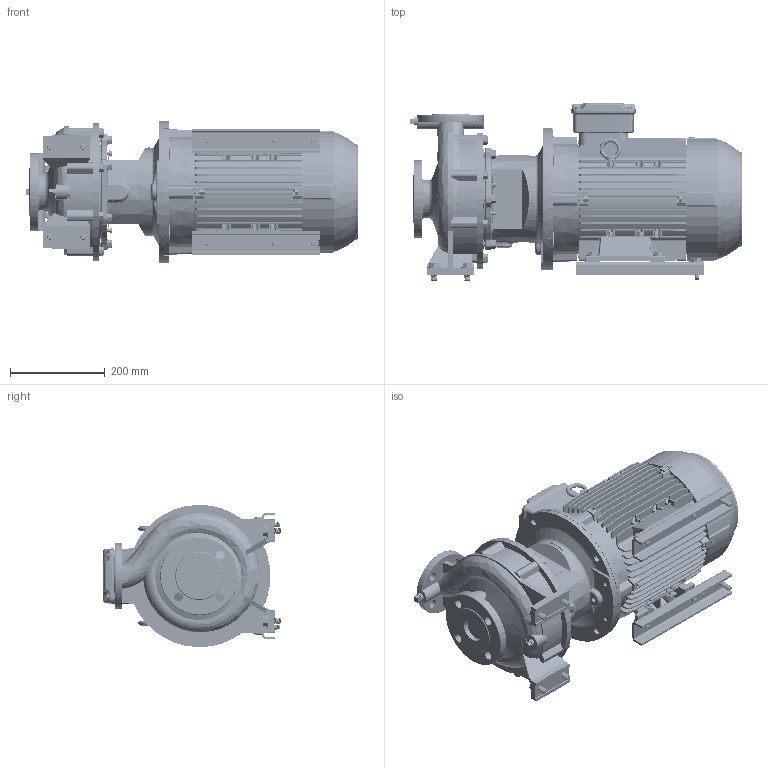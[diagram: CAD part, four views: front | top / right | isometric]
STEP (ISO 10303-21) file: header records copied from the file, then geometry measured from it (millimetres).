
FILE_DESCRIPTION (( 'STEP AP214' ), '1' );
FILE_NAME ('GSD2 32-200_5.5 & 7.5_(132S)_W21.STEP', '2026-07-02T05:00:36', ( '' ), ( '' ), 'SwSTEP 2.0', 'SolidWorks 2024', '' );
FILE_SCHEMA (( 'AUTOMOTIVE_DESIGN' ));
Length unit declared in the file: millimetre
Products named in the file (11): Parametric bolt_SFT-A253B; GSD2  32-200_5.5 & 7.5_(132S)_W21; Parametric Flat Washer_M10; 140_178 x 28 - 271472025; Parametric bolt and washer_SFT-A253B; Parametric Flat Washer_M12; Parametric bolt and washer_SFT-A299B; 32-200-132S; Parametric bolt_SFT-A299B; Parametric bolt_SFT-A257B; 132S ALIE3_W21T_B35
Assembly tree (20 placements, depth 3):
  GSD2  32-200_5.5 & 7.5_(132S)_W21
    32-200-132S
    140_178 x 28 - 271472025  x2
    Parametric bolt and washer_SFT-A299B  x4
      Parametric bolt_SFT-A299B
      Parametric Flat Washer_M12
    Parametric bolt_SFT-A257B  x2
    Parametric Flat Washer_M10  x2
    Parametric bolt and washer_SFT-A253B  x4
      Parametric bolt_SFT-A253B
      Parametric Flat Washer_M10
    132S ALIE3_W21T_B35
Bounding box: 700.45 x 375.5 x 300 mm (x, y, z)
Volume: 28073407.9 mm3; surface area: 2032685.6 mm2
Topology: 42 solids, 42 shells, 5008 faces, 13079 edges, 8507 vertices
Faces by surface type: plane 2983, cylinder 1199, torus 301, bspline 256, cone 237, sphere 32
Entity records: 173286 total; most frequent: CARTESIAN_POINT 62466, ORIENTED_EDGE 23826, DIRECTION 21553, EDGE_CURVE 11913, VECTOR 7899, LINE 7899, VERTEX_POINT 7759, AXIS2_PLACEMENT_3D 6827
